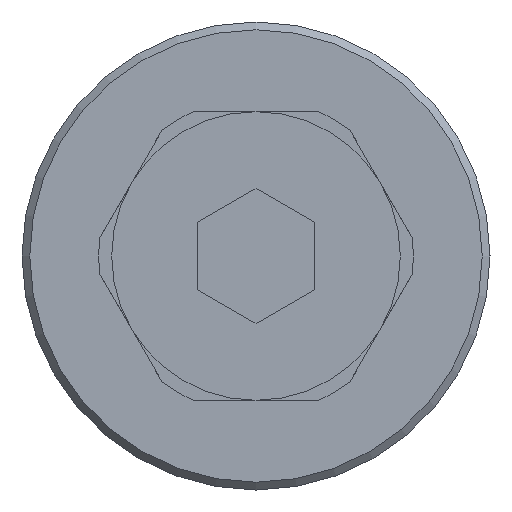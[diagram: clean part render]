
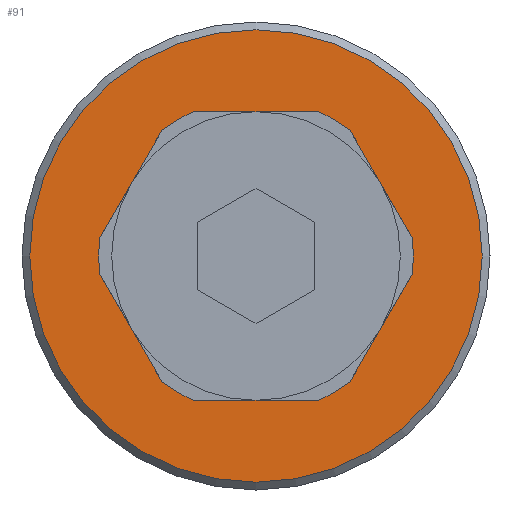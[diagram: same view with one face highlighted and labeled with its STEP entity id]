
A CAD part, left-side view. The second image highlights one B-rep face of the part: STEP entity #91.
In plain terms, the highlighted planar face has unit normal (-1, 0, 0).
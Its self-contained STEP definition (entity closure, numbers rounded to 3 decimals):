
#91 = ADVANCED_FACE( '', ( #208, #209 ), #210, .F. );
#208 = FACE_OUTER_BOUND( '', #355, .T. );
#209 = FACE_BOUND( '', #356, .T. );
#210 = PLANE( '', #357 );
#355 = EDGE_LOOP( '', ( #547 ) );
#356 = EDGE_LOOP( '', ( #548, #549, #550, #551, #552, #553, #554, #555, #556, #557, #558, #559 ) );
#357 = AXIS2_PLACEMENT_3D( '', #560, #561, #562 );
#547 = ORIENTED_EDGE( '', *, *, #829, .F. );
#548 = ORIENTED_EDGE( '', *, *, #830, .T. );
#549 = ORIENTED_EDGE( '', *, *, #831, .T. );
#550 = ORIENTED_EDGE( '', *, *, #832, .T. );
#551 = ORIENTED_EDGE( '', *, *, #833, .T. );
#552 = ORIENTED_EDGE( '', *, *, #834, .T. );
#553 = ORIENTED_EDGE( '', *, *, #792, .T. );
#554 = ORIENTED_EDGE( '', *, *, #835, .T. );
#555 = ORIENTED_EDGE( '', *, *, #836, .T. );
#556 = ORIENTED_EDGE( '', *, *, #837, .F. );
#557 = ORIENTED_EDGE( '', *, *, #838, .T. );
#558 = ORIENTED_EDGE( '', *, *, #839, .T. );
#559 = ORIENTED_EDGE( '', *, *, #802, .T. );
#560 = CARTESIAN_POINT( '', ( 0., 0., 0. ) );
#561 = DIRECTION( '', ( 1., 0., 0. ) );
#562 = DIRECTION( '', ( 0., 0., -1. ) );
#792 = EDGE_CURVE( '', #927, #925, #928, .T. );
#802 = EDGE_CURVE( '', #944, #942, #945, .T. );
#829 = EDGE_CURVE( '', #985, #985, #986, .T. );
#830 = EDGE_CURVE( '', #942, #987, #988, .T. );
#831 = EDGE_CURVE( '', #987, #989, #990, .T. );
#832 = EDGE_CURVE( '', #989, #991, #992, .T. );
#833 = EDGE_CURVE( '', #991, #993, #994, .T. );
#834 = EDGE_CURVE( '', #993, #927, #995, .T. );
#835 = EDGE_CURVE( '', #925, #996, #997, .T. );
#836 = EDGE_CURVE( '', #996, #998, #999, .T. );
#837 = EDGE_CURVE( '', #1000, #998, #1001, .F. );
#838 = EDGE_CURVE( '', #1000, #1002, #1003, .T. );
#839 = EDGE_CURVE( '', #1002, #944, #1004, .T. );
#925 = VERTEX_POINT( '', #1108 );
#927 = VERTEX_POINT( '', #1111 );
#928 = LINE( '', #1112, #1113 );
#942 = VERTEX_POINT( '', #1131 );
#944 = VERTEX_POINT( '', #1134 );
#945 = LINE( '', #1135, #1136 );
#985 = VERTEX_POINT( '', #1185 );
#986 = CIRCLE( '', #1186, 5.8 );
#987 = VERTEX_POINT( '', #1187 );
#988 = CIRCLE( '', #1188, 4.03 );
#989 = VERTEX_POINT( '', #1189 );
#990 = LINE( '', #1190, #1191 );
#991 = VERTEX_POINT( '', #1192 );
#992 = CIRCLE( '', #1193, 4.03 );
#993 = VERTEX_POINT( '', #1194 );
#994 = LINE( '', #1195, #1196 );
#995 = CIRCLE( '', #1197, 4.03 );
#996 = VERTEX_POINT( '', #1198 );
#997 = CIRCLE( '', #1199, 4.03 );
#998 = VERTEX_POINT( '', #1200 );
#999 = LINE( '', #1201, #1202 );
#1000 = VERTEX_POINT( '', #1203 );
#1001 = CIRCLE( '', #1204, 4.03 );
#1002 = VERTEX_POINT( '', #1205 );
#1003 = LINE( '', #1206, #1207 );
#1004 = CIRCLE( '', #1208, 4.03 );
#1108 = CARTESIAN_POINT( '', ( 0., 1.597, -3.7 ) );
#1111 = CARTESIAN_POINT( '', ( 0., -1.597, -3.7 ) );
#1112 = CARTESIAN_POINT( '', ( 0., -1.597, -3.7 ) );
#1113 = VECTOR( '', #1321, 1000. );
#1131 = CARTESIAN_POINT( '', ( 0., -1.597, 3.7 ) );
#1134 = CARTESIAN_POINT( '', ( 0., 1.597, 3.7 ) );
#1135 = CARTESIAN_POINT( '', ( 0., 1.597, 3.7 ) );
#1136 = VECTOR( '', #1333, 1000. );
#1185 = CARTESIAN_POINT( '', ( 0., 0., -5.8 ) );
#1186 = AXIS2_PLACEMENT_3D( '', #1370, #1371, #1372 );
#1187 = CARTESIAN_POINT( '', ( 0., -2.406, 3.233 ) );
#1188 = AXIS2_PLACEMENT_3D( '', #1373, #1374, #1375 );
#1189 = CARTESIAN_POINT( '', ( 0., -4.003, 0.467 ) );
#1190 = CARTESIAN_POINT( '', ( 0., -2.406, 3.233 ) );
#1191 = VECTOR( '', #1376, 1000. );
#1192 = CARTESIAN_POINT( '', ( 0., -4.003, -0.467 ) );
#1193 = AXIS2_PLACEMENT_3D( '', #1377, #1378, #1379 );
#1194 = CARTESIAN_POINT( '', ( 0., -2.406, -3.233 ) );
#1195 = CARTESIAN_POINT( '', ( 0., -4.003, -0.467 ) );
#1196 = VECTOR( '', #1380, 1000. );
#1197 = AXIS2_PLACEMENT_3D( '', #1381, #1382, #1383 );
#1198 = CARTESIAN_POINT( '', ( 0., 2.406, -3.233 ) );
#1199 = AXIS2_PLACEMENT_3D( '', #1384, #1385, #1386 );
#1200 = CARTESIAN_POINT( '', ( 0., 4.003, -0.467 ) );
#1201 = CARTESIAN_POINT( '', ( 0., 2.406, -3.233 ) );
#1202 = VECTOR( '', #1387, 1000. );
#1203 = CARTESIAN_POINT( '', ( 0., 4.003, 0.467 ) );
#1204 = AXIS2_PLACEMENT_3D( '', #1388, #1389, #1390 );
#1205 = CARTESIAN_POINT( '', ( 0., 2.406, 3.233 ) );
#1206 = CARTESIAN_POINT( '', ( 0., 4.003, 0.467 ) );
#1207 = VECTOR( '', #1391, 1000. );
#1208 = AXIS2_PLACEMENT_3D( '', #1392, #1393, #1394 );
#1321 = DIRECTION( '', ( 0., 1., 0. ) );
#1333 = DIRECTION( '', ( 0., -1., 0. ) );
#1370 = CARTESIAN_POINT( '', ( 0., 0., 0. ) );
#1371 = DIRECTION( '', ( 1., 0., 0. ) );
#1372 = DIRECTION( '', ( 0., 0., -1. ) );
#1373 = CARTESIAN_POINT( '', ( 0., 0., 0. ) );
#1374 = DIRECTION( '', ( 1., 0., 0. ) );
#1375 = DIRECTION( '', ( 0., 0., -1. ) );
#1376 = DIRECTION( '', ( 0., -0.5, -0.866 ) );
#1377 = CARTESIAN_POINT( '', ( 0., 0., 0. ) );
#1378 = DIRECTION( '', ( 1., 0., 0. ) );
#1379 = DIRECTION( '', ( 0., 0., -1. ) );
#1380 = DIRECTION( '', ( 0., 0.5, -0.866 ) );
#1381 = CARTESIAN_POINT( '', ( 0., 0., 0. ) );
#1382 = DIRECTION( '', ( 1., 0., 0. ) );
#1383 = DIRECTION( '', ( 0., 0., -1. ) );
#1384 = CARTESIAN_POINT( '', ( 0., 0., 0. ) );
#1385 = DIRECTION( '', ( 1., 0., 0. ) );
#1386 = DIRECTION( '', ( 0., 0., -1. ) );
#1387 = DIRECTION( '', ( 0., 0.5, 0.866 ) );
#1388 = CARTESIAN_POINT( '', ( 0., 0., 0. ) );
#1389 = DIRECTION( '', ( 1., 0., 0. ) );
#1390 = DIRECTION( '', ( 0., 0., -1. ) );
#1391 = DIRECTION( '', ( 0., -0.5, 0.866 ) );
#1392 = CARTESIAN_POINT( '', ( 0., 0., 0. ) );
#1393 = DIRECTION( '', ( 1., 0., 0. ) );
#1394 = DIRECTION( '', ( 0., 0., -1. ) );
